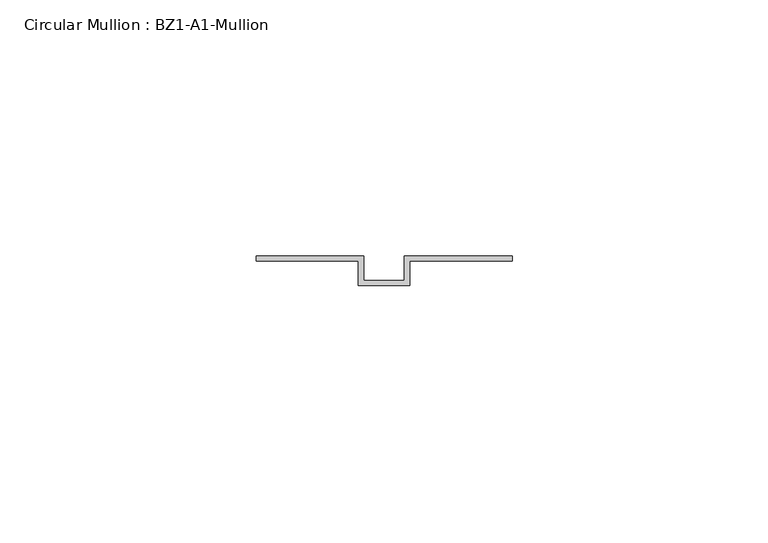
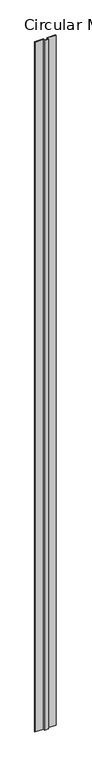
"""IFC4 building model written with IfcOpenShell, lengths in millimetres: member geometry, Circular Mullion : BZ1-A1-Mullion."""

import ifcopenshell
import ifcopenshell.guid

model = None  # the IFC model being written
_history = None  # IfcOwnerHistory: only IFC2X3 demands one
_inside = {}  # id of a spatial element -> (the spatial element, [elements in it])
_under = {}  # id of a project, library or spatial element -> (it, [spatial elements below it])
_declared = {}  # id of a project -> (the project, [libraries it declares])
_typed = {}  # id of a type object -> (the type object, [elements of that type])
_made_of = {}  # id of a material, layer set ... -> (it, [elements and type objects made of it])


def new_model(schema):
    """Start an empty IFC model of exactly this schema.

    Asked for "IFC4X3", IfcOpenShell would pick the latest addendum, in which some entities
    have other attributes; the version numbers below select the first issue.
    IFC2X3 requires an IfcOwnerHistory on every rooted entity: one is made here for all.
    """
    global model, _history
    if schema == "IFC4X3":
        model = ifcopenshell.file(schema_version=(4, 3, 0, 0))
    else:
        model = ifcopenshell.file(schema=schema)
    _inside.clear()
    _under.clear()
    _declared.clear()
    _typed.clear()
    _made_of.clear()
    _history = None
    if model.schema == "IFC2X3":
        org = make("IfcOrganization", Name="unknown")
        user = make(
            "IfcPersonAndOrganization",
            ThePerson=make("IfcPerson", FamilyName="unknown"),
            TheOrganization=org,
        )
        app = make(
            "IfcApplication",
            ApplicationDeveloper=org,
            Version="unknown",
            ApplicationFullName="unknown",
            ApplicationIdentifier="unknown",
        )
        _history = make(
            "IfcOwnerHistory",
            OwningUser=user,
            OwningApplication=app,
            ChangeAction="ADDED",
            CreationDate=0,
        )
    return model


def make(cls, **values):
    """One entity of the class cls with the attributes given. An attribute that is None is left unset."""
    return model.create_entity(
        cls, **{name: value for name, value in values.items() if value is not None}
    )


def rooted(cls, **values):
    """An entity with a GlobalId (a new one), such as an element, a storey or a relation."""
    return make(cls, GlobalId=ifcopenshell.guid.new(), OwnerHistory=_history, **values)


def si_unit(unit_type, name, prefix=None):
    """IfcSIUnit, for example si_unit("LENGTHUNIT", "METRE", prefix="MILLI")."""
    return make("IfcSIUnit", UnitType=unit_type, Prefix=prefix, Name=name)


def assignment(units):
    """IfcUnitAssignment: the units of a project."""
    return None if units is None else make("IfcUnitAssignment", Units=units)


def point(xyz):
    """IfcCartesianPoint."""
    return None if xyz is None else make("IfcCartesianPoint", Coordinates=xyz)


def direction(xyz):
    """IfcDirection."""
    return None if xyz is None else make("IfcDirection", DirectionRatios=xyz)


def frame(location, z_axis=None, x_axis=None):
    """IfcAxis2Placement3D, a coordinate frame: its origin and axes. An axis left out is left unset."""
    return make(
        "IfcAxis2Placement3D",
        Location=point(location),
        Axis=direction(z_axis),
        RefDirection=direction(x_axis),
    )


def origin():
    """The frame at (0, 0, 0) with its axes left unset."""
    return frame((0.0, 0.0, 0.0))


def place(relative_to, where):
    """IfcLocalPlacement: puts the frame where relative to a parent placement (None: the world)."""
    return make(
        "IfcLocalPlacement", PlacementRelTo=relative_to, RelativePlacement=where
    )


def context(
    kind, dimensions, precision=None, world=None, true_north=None, identifier=None
):
    """IfcGeometricRepresentationContext, for example the 3D "Model" context."""
    return make(
        "IfcGeometricRepresentationContext",
        ContextIdentifier=identifier,
        ContextType=kind,
        CoordinateSpaceDimension=dimensions,
        Precision=precision,
        WorldCoordinateSystem=world,
        TrueNorth=true_north,
    )


def project(units=None, contexts=None):
    """IfcProject with its units and contexts."""
    return rooted(
        "IfcProject",
        Name="project",
        RepresentationContexts=contexts,
        UnitsInContext=assignment(units),
    )


def spatial(cls, under=None, at=None, **own):
    """A site, building, storey or space (cls), placed at a placement, below another one or the project."""
    s = rooted(cls, ObjectPlacement=at, **own)
    if under is not None:
        _under.setdefault(under.id(), (under, []))[1].append(s)
    return s


def polyline(points):
    """IfcPolyline through the points."""
    return make("IfcPolyline", Points=[point(p) for p in points])


def outline(outer, holes=None, kind="AREA"):
    """IfcArbitraryClosedProfileDef: a profile drawn as a closed curve; with holes, ...WithVoids."""
    if holes is None:
        return make("IfcArbitraryClosedProfileDef", ProfileType=kind, OuterCurve=outer)
    return make(
        "IfcArbitraryProfileDefWithVoids",
        ProfileType=kind,
        OuterCurve=outer,
        InnerCurves=holes,
    )


def extrude(swept, where, along, depth):
    """IfcExtrudedAreaSolid: the profile swept, set in the frame where, extruded along a direction by depth."""
    return make(
        "IfcExtrudedAreaSolid",
        SweptArea=swept,
        Position=where,
        ExtrudedDirection=direction(along),
        Depth=depth,
    )


def shape(context_of_items, identifier, shape_type, items):
    """IfcShapeRepresentation: the items that make up one representation, for example the "Body"."""
    return make(
        "IfcShapeRepresentation",
        ContextOfItems=context_of_items,
        RepresentationIdentifier=identifier,
        RepresentationType=shape_type,
        Items=items,
    )


def source(mapping_origin, context_of_items, identifier, shape_type, items):
    """IfcRepresentationMap: a shape defined once, which mapped items show again and again."""
    return make(
        "IfcRepresentationMap",
        MappingOrigin=mapping_origin,
        MappedRepresentation=shape(context_of_items, identifier, shape_type, items),
    )


def transform(
    local_origin,
    x_axis=None,
    y_axis=None,
    z_axis=None,
    scale=None,
    scale2=None,
    scale3=None,
    uniform=True,
):
    """IfcCartesianTransformationOperator3D, or its non-uniform kind. x_axis, y_axis, z_axis: its Axis1, 2, 3."""
    if uniform:
        return make(
            "IfcCartesianTransformationOperator3D",
            Axis1=direction(x_axis),
            Axis2=direction(y_axis),
            LocalOrigin=point(local_origin),
            Scale=scale,
            Axis3=direction(z_axis),
        )
    return make(
        "IfcCartesianTransformationOperator3DnonUniform",
        Axis1=direction(x_axis),
        Axis2=direction(y_axis),
        LocalOrigin=point(local_origin),
        Scale=scale,
        Axis3=direction(z_axis),
        Scale2=scale2,
        Scale3=scale3,
    )


def mapped(mapping_source, mapping_target):
    """IfcMappedItem: shows the shape of a source again, moved by a transform."""
    return make(
        "IfcMappedItem", MappingSource=mapping_source, MappingTarget=mapping_target
    )


def made_of(thing, what):
    """Note that an element or type object is made of a material, layer set ...; save() writes the relation."""
    if what is not None:
        _made_of.setdefault(what.id(), (what, []))[1].append(thing)
    return thing


def element(
    cls,
    number,
    at=None,
    inside=None,
    cuts=None,
    type_object=None,
    material=None,
    context=None,
    identifier="Body",
    shape_type=None,
    held_by="IfcProductDefinitionShape",
    body=None,
    shapes=None,
    **own,
):
    """One element of the class cls, such as IfcWall. Its Tag is "e" and its number.

    at: its placement. inside: the storey or other place that contains it. cuts: it is an
    opening in that element (IfcRelVoidsElement). A single representation is given by context,
    identifier, shape_type and body (its items); several are given by shapes. held_by: the class
    of the entity that holds the representations. save() writes the other relations.
    """
    e = rooted(cls, Tag="e%d" % number, ObjectPlacement=at, **own)
    if body is not None:
        shapes = [shape(context, identifier, shape_type, body)]
    if shapes is not None:
        e.Representation = make(held_by, Representations=shapes)
    if inside is not None:
        _inside.setdefault(inside.id(), (inside, []))[1].append(e)
    if cuts is not None:
        rooted(
            "IfcRelVoidsElement", RelatingBuildingElement=cuts, RelatedOpeningElement=e
        )
    if type_object is not None:
        _typed.setdefault(type_object.id(), (type_object, []))[1].append(e)
    return made_of(e, material)


def aggregate(whole, parts):
    """IfcRelAggregates: a whole, such as a stair, and the parts it consists of."""
    return rooted("IfcRelAggregates", RelatingObject=whole, RelatedObjects=parts)


def save(model, path):
    """Write the relations noted so far, then the file.

    IfcRelAggregates (storeys below a building ...), IfcRelContainedInSpatialStructure (elements
    in a storey), IfcRelDefinesByType, IfcRelAssociatesMaterial and IfcRelDeclares: one each for
    every whole, place, type object, material and project.
    """
    for whole, parts in _under.values():
        aggregate(whole, parts)
    for where, things in _inside.values():
        rooted(
            "IfcRelContainedInSpatialStructure",
            RelatedElements=things,
            RelatingStructure=where,
        )
    for kind, things in _typed.values():
        rooted("IfcRelDefinesByType", RelatedObjects=things, RelatingType=kind)
    for what, things in _made_of.values():
        rooted("IfcRelAssociatesMaterial", RelatedObjects=things, RelatingMaterial=what)
    for by, libraries in _declared.values():
        rooted("IfcRelDeclares", RelatingContext=by, RelatedDefinitions=libraries)
    model.write(path)


def circular_mullion_bz1_a1_mullion_186cd793(model_context):
    return source(origin(), model_context, "Body", "SweptSolid", [
        extrude(outline(polyline([(-25.0, 11.0), (-4.0, 11.0), (-4.0, 6.2), (4.0, 6.2), (4.0, 11.0), (25.0, 11.0), (25.0, 10.0), (5.0, 10.0), (5.0, 5.2), (-5.0, 5.2), (-5.0, 10.0), (-25.0, 10.0), (-25.0, 11.0)])), frame((0.0, 0.0, -1742.0), z_axis=(0.0, 0.0, 1.0), x_axis=(1.0, 0.0, 0.0)), (0.0, 0.0, 1.0), 1742.0),
    ])


if __name__ == "__main__":
    model = new_model("IFC4")
    model_context = context("Model", 3, world=origin())
    ifc_project = project(units=[si_unit("LENGTHUNIT", "METRE", prefix="MILLI")], contexts=[model_context])
    site = spatial("IfcSite", under=ifc_project)
    building = spatial("IfcBuilding", under=site)
    placement = place(None, origin())
    circular_mullion_bz1_a1_mullion_shape = circular_mullion_bz1_a1_mullion_186cd793(model_context)
    element("IfcMember", 1, ObjectType="Circular Mullion : BZ1-A1-Mullion", at=placement, inside=building, context=model_context, shape_type="MappedRepresentation", body=[
        mapped(circular_mullion_bz1_a1_mullion_shape, transform((0.0, 0.0, 0.0), x_axis=(1.0, 0.0, 0.0), y_axis=(0.0, 1.0, 0.0), z_axis=(0.0, 0.0, 1.0))),
    ])
    save(model, "model.ifc")
